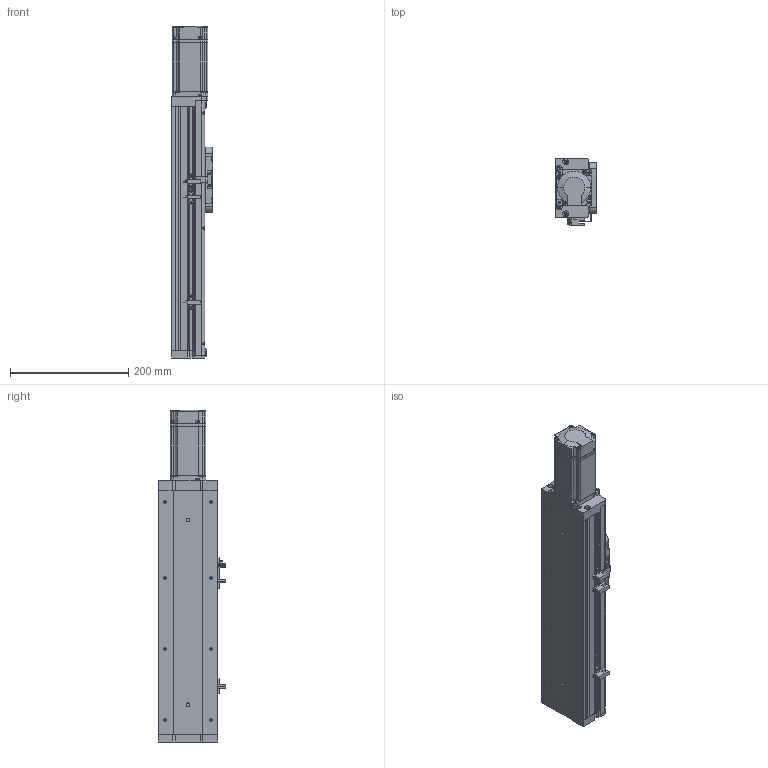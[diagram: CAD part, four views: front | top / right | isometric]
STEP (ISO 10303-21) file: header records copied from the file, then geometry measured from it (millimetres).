
FILE_DESCRIPTION (( 'STEP AP214' ), '1' );
FILE_NAME ('KSD100S-S200-MN-CR.STEP', '2019-09-02T08:45:41', ( '微软用户' ), ( '微软中国' ), 'SwSTEP 2.0', 'SolidWorks 2014', '' );
FILE_SCHEMA (( 'AUTOMOTIVE_DESIGN' ));
Length unit declared in the file: millimetre
Products named in the file (12): KSD100S-S200-MN-CR; MHMD042G1CA_2_03; U倰嫖萇EEㄜSX672; 感应片100宽全封闭; 100宽马达安装板全封闭不带电机座; 100宽端板全封闭; 100宽滚珠螺姆安装板1防护罩; 100宽滚珠螺姆安装板1; 100宽盖板压板不带电机座; 100宽盖板200行程不带电机座; 100宽侧板200行程不带电机座; 100宽底板全封闭200行程不带电机座
Assembly tree (15 placements, depth 2):
  KSD100S-S200-MN-CR
    100宽底板全封闭200行程不带电机座
    100宽侧板200行程不带电机座  x2
    100宽盖板200行程不带电机座
    100宽盖板压板不带电机座  x2
    100宽滚珠螺姆安装板1
    100宽滚珠螺姆安装板1防护罩
    100宽端板全封闭
    100宽马达安装板全封闭不带电机座
    感应片100宽全封闭
    U倰嫖萇EEㄜSX672  x3
    MHMD042G1CA_2_03
Bounding box: 70 x 113.7 x 560.5 mm (x, y, z)
Volume: 965416 mm3; surface area: 444521.6 mm2
Topology: 14 solids, 15 shells, 1404 faces, 3924 edges, 2532 vertices
Faces by surface type: plane 652, cylinder 569, cone 165, bspline 18
Entity records: 47560 total; most frequent: CARTESIAN_POINT 7317, DIRECTION 6509, ORIENTED_EDGE 6092, EDGE_CURVE 3118, AXIS2_PLACEMENT_3D 2280, VERTEX_POINT 2070, LINE 1949, VECTOR 1949
